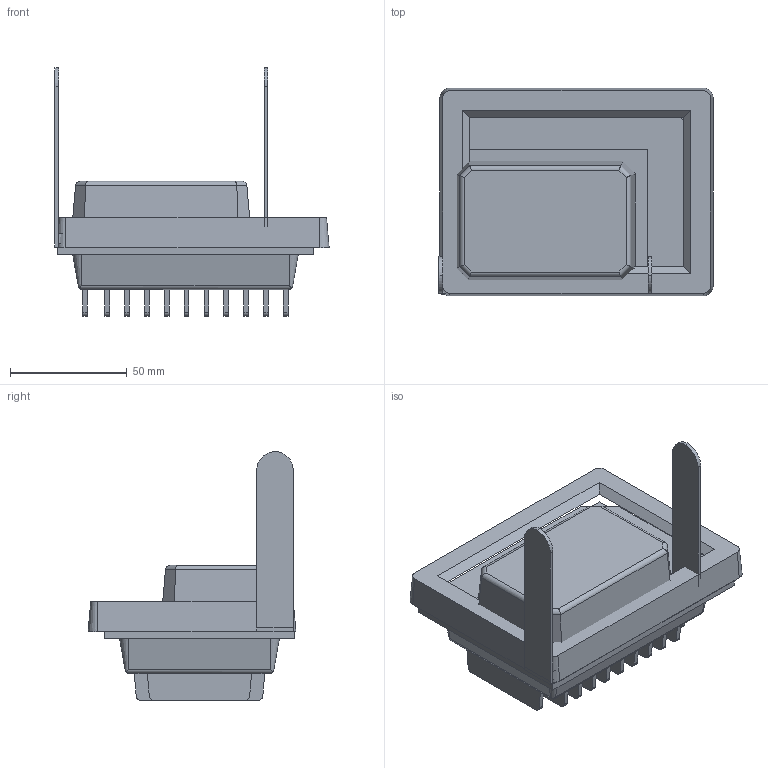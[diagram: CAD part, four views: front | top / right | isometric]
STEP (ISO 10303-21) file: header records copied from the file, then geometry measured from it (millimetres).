
FILE_DESCRIPTION(/* description */ ('Alibre Inc.'),/* implementation_level */ '2;1');
FILE_NAME(/* name */ 'export0',/* time_stamp */ '2013-03-27T14:23:40-06:00',/* author */ (''),/* organization */ (''),/* preprocessor_version */ 'ST-DEVELOPER v14',/* originating_system */ 'Alibre',/* authorisation */ '');
FILE_SCHEMA (('ALIBRE_SCHEMA','CONFIG_CONTROL_DESIGN'));
Length unit declared in the file: centimetre
Products named in the file (5): ID_1
Bounding box: 117.46 x 89.01 x 106.6 mm (x, y, z)
Volume: 300431.6 mm3; surface area: 82444.6 mm2
Topology: 4 solids, 4 shells, 179 faces, 456 edges, 299 vertices
Faces by surface type: plane 129, cylinder 38, cone 12
Entity records: 11590 total; most frequent: CARTESIAN_POINT 1615, DIRECTION 1082, ORIENTED_EDGE 912, VECTOR 621, CONSTRAINTPAIRUV 619, LINE 524, PERSISTANTTOPOLOGYATTRIBUTE 485, REFERENCEDEPENDENTUV 475
